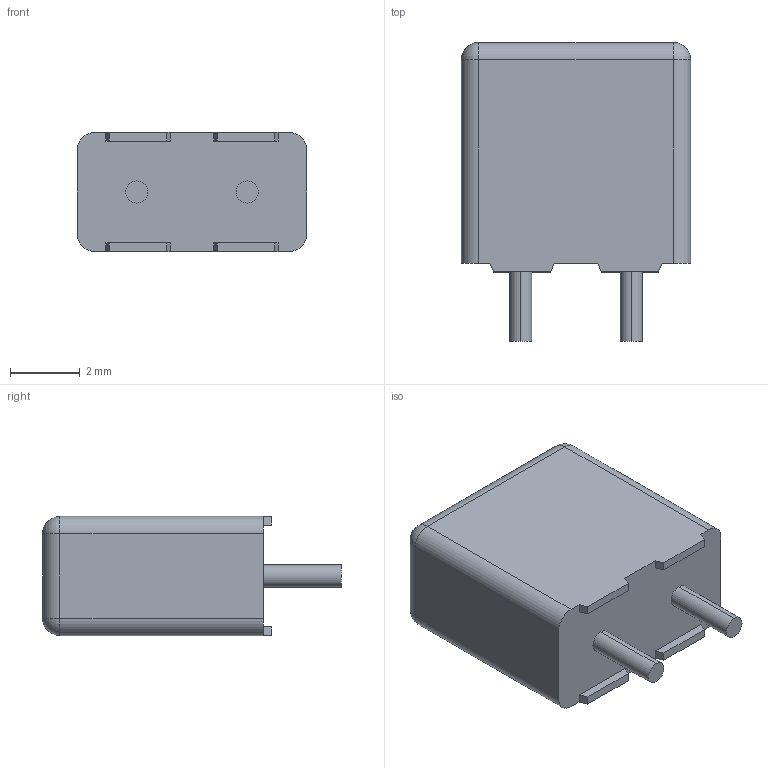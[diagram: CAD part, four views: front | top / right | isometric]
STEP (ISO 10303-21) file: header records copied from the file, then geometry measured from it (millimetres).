
FILE_DESCRIPTION (( 'STEP AP214' ), '1' );
FILE_NAME ( 'RESRR318W63L660T343H660.STEP', '2021-10-06T06:49:12', ( '' ), ( '' ), '', '©2017 PCB Libraries, Inc.', '' );
FILE_SCHEMA (( 'AUTOMOTIVE_DESIGN' ));
Length unit declared in the file: millimetre
Products named in the file (1): RESRR318W63L660T343H660
Bounding box: 6.6 x 8.6 x 3.43 mm (x, y, z)
Volume: 143.3 mm3; surface area: 176.6 mm2
Topology: 3 solids, 3 shells, 42 faces, 100 edges, 60 vertices
Faces by surface type: plane 26, cylinder 12, sphere 4
Entity records: 1342 total; most frequent: DIRECTION 206, CARTESIAN_POINT 199, ORIENTED_EDGE 192, EDGE_CURVE 96, VECTOR 72, LINE 72, AXIS2_PLACEMENT_3D 67, VERTEX_POINT 60
